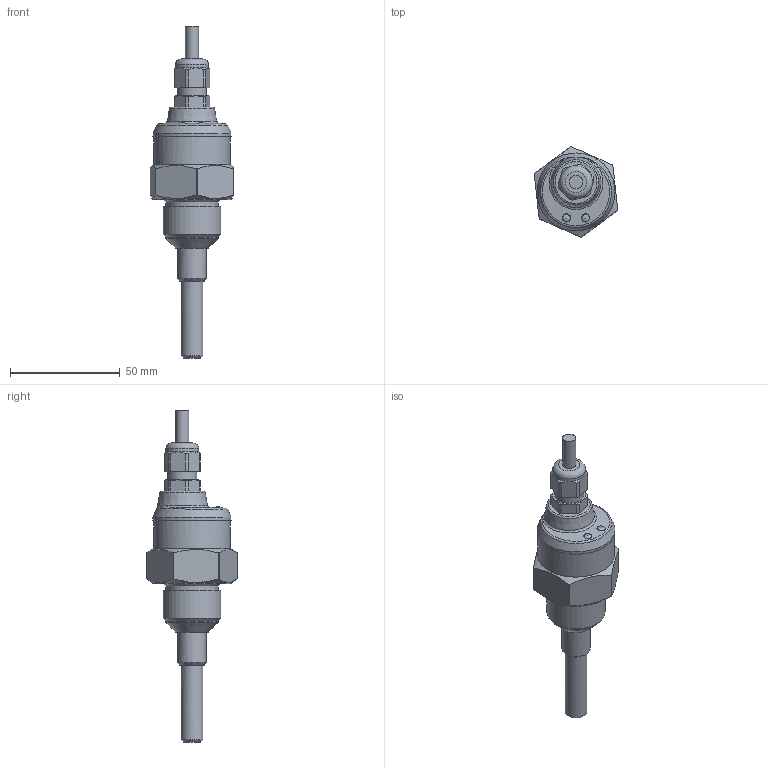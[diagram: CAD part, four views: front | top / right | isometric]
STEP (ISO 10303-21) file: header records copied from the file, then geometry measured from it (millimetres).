
FILE_DESCRIPTION(/* description */ ('Unknown'),/* implementation_level */ '2;1');
FILE_NAME(/* name */ 'DLS-35_N-10-G3_4-_-B_E50',/* time_stamp */ '2019-06-27T08:20:41+02:00',/* author */ ('Unknown'),/* organization */ ('Unknown'),/* preprocessor_version */ 'ST-DEVELOPER v16.7',/* originating_system */ 'DEX',/* authorisation */ $);
FILE_SCHEMA (('AUTOMOTIVE_DESIGN {1 0 10303 214 3 1 1}'));
Length unit declared in the file: millimetre
Products named in the file (1): DLS-35_N-10-G3_4-_-B_E50
Bounding box: 38.02 x 41.27 x 151.1 mm (x, y, z)
Volume: 36256.5 mm3; surface area: 19614.5 mm2
Topology: 1 solids, 9 shells, 242 faces, 586 edges, 380 vertices
Faces by surface type: plane 97, cylinder 81, cone 43, bspline 14, torus 7
Full cylindrical faces by diameter (mm): 2.5 x2, 2.6 x2, 3 x1, 3.5 x5, 5 x1, 6 x2, 8 x1, 10 x1, 10.38 x1, 10.5 x1, 12 x1, 13 x2, 13.2 x1, 15 x1, 16 x1, 18 x1, 18.8 x1, 18.917 x1, 20 x1, 24 x2, 26.441 x1, 27.3 x1, 30.999 x1, 33.3 x2, 33.5 x2, 34.8 x1, 35.5 x1, 35.6 x1
Entity records: 9045 total; most frequent: CARTESIAN_POINT 2174, DIRECTION 1088, ORIENTED_EDGE 932, EDGE_CURVE 466, AXIS2_PLACEMENT_3D 459, FACE_BOUND 355, EDGE_LOOP 348, VERTEX_POINT 345
